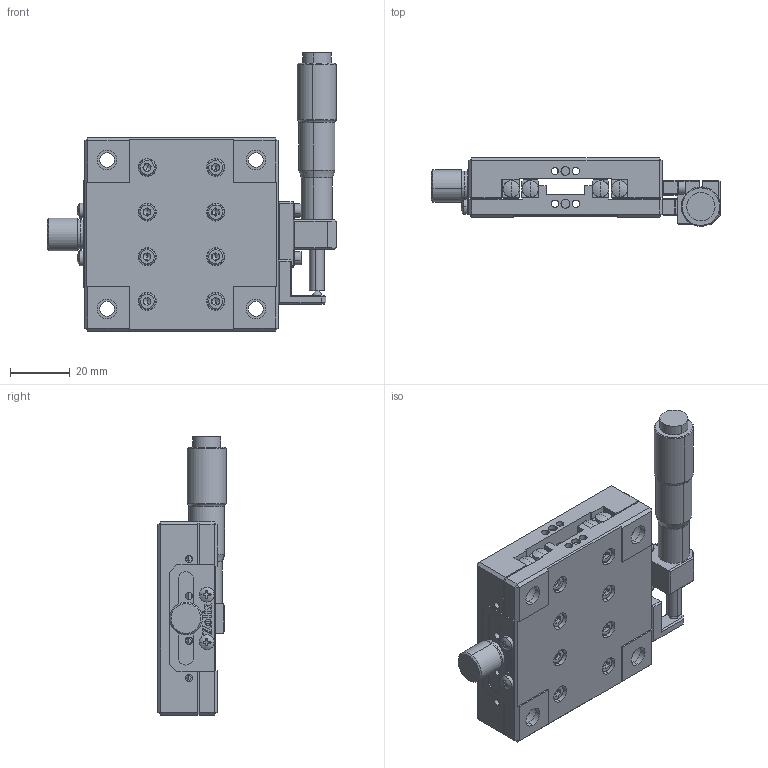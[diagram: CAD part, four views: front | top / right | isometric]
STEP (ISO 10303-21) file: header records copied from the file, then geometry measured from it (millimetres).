
FILE_DESCRIPTION (( 'STEP AP203' ), '1' );
FILE_NAME ('AK25A-6520RZ.step', '2019-05-08T06:38:04', ( '' ), ( '' ), 'SwSTEP 2.0', 'SolidWorks 2017', '' );
FILE_SCHEMA (( 'CONFIG_CONTROL_DESIGN' ));
Length unit declared in the file: millimetre
Products named in the file (1): AK25A-6520RZ
Bounding box: 97.1 x 23.1 x 93.5 mm (x, y, z)
Surface area: 34658.8 mm2 (no closed solid volume)
Topology: 0 solids, 42 shells, 767 faces, 2569 edges, 1708 vertices
Faces by surface type: plane 463, cylinder 172, cone 66, torus 44, bspline 16, sphere 6
Entity records: 27697 total; most frequent: CARTESIAN_POINT 5441, DIRECTION 4788, ORIENTED_EDGE 4085, EDGE_CURVE 2506, VERTEX_POINT 1705, LINE 1628, VECTOR 1628, AXIS2_PLACEMENT_3D 1580
